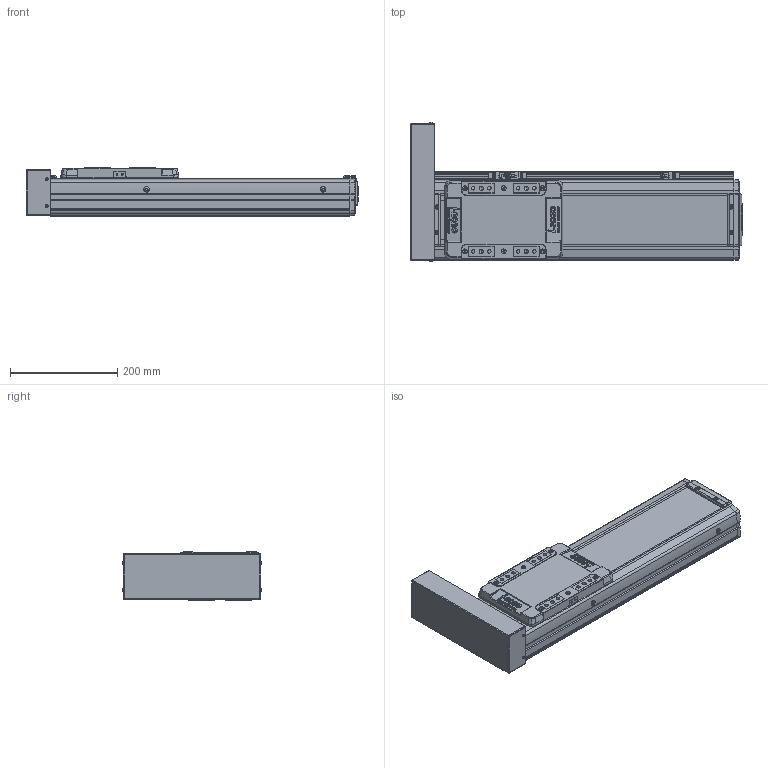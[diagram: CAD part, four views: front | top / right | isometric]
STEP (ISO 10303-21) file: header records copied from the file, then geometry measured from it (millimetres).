
FILE_DESCRIPTION(('STEP AP214'),'1');
FILE_NAME('Z:/Web/3D/SAN150/2013.04 (STP.)/SAN150ㅁㅁ-300PL+3SL.stp','2013-05-08T02:13:53',(' '),(' '),'Spatial InterOp 3D',' ',' ');
FILE_SCHEMA(('automotive_design'));
Length unit declared in the file: millimetre
Products named in the file (58): SLBL-SAN150; SLCV-SAN150; FHCS M4.0 x 8.0; BHCS M4.0 x 10.0; SFX-SAN150; RRCV-SAN150; FRBL-SAN150; Spacer; RN15; FRCV-SAN150; Screw 20; BASE-SAN150-000L ; SUS COVER; 스크루 : Round - M5.0 x 6.0; BHCS M3.0 x 6.0; P; M3.0 x 6.0; SRL-16x17-360L; SGD-SAN150; EE-SX674; SBK-SX674-352; 스크루 : Round - M3.0 x 6.0
Bounding box: 620 x 260.73 x 90 mm (x, y, z)
Volume: 4667714.6 mm3; surface area: 843922.1 mm2
Topology: 58 solids, 58 shells, 2590 faces, 6655 edges, 4280 vertices
Faces by surface type: plane 1388, cylinder 831, cone 258, sphere 80, bspline 21, torus 12
Entity records: 102234 total; most frequent: CARTESIAN_POINT 15981, DIRECTION 14080, ORIENTED_EDGE 13094, EDGE_CURVE 6547, AXIS2_PLACEMENT_3D 4982, VERTEX_POINT 4280, LINE 4116, VECTOR 4116
